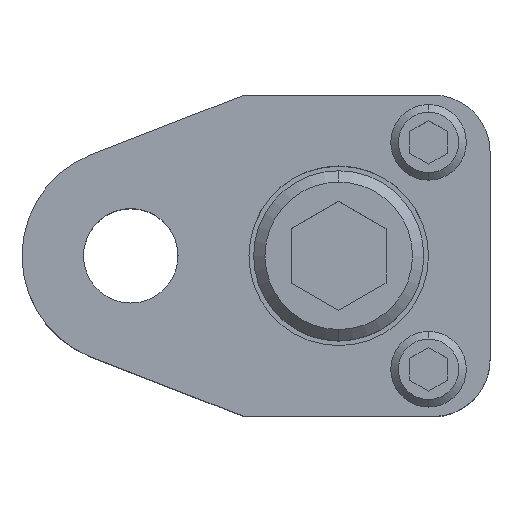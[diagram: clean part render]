
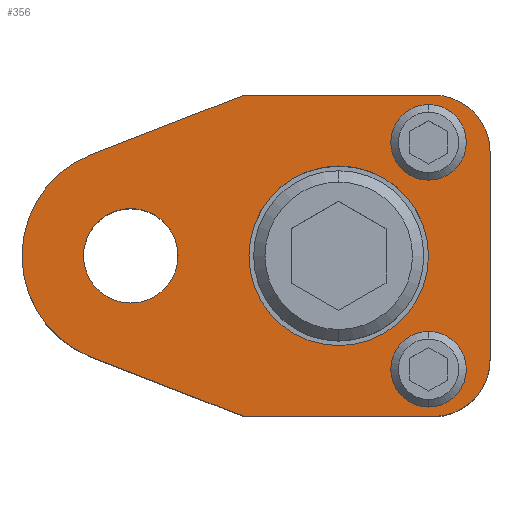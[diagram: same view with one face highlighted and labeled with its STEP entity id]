
A CAD part, top view. The second image highlights one B-rep face of the part: STEP entity #356.
In plain terms, the highlighted planar face has unit normal (0, 0, 1).
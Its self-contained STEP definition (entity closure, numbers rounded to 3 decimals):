
#178=FACE_BOUND('',#617,.T.);
#179=FACE_BOUND('',#618,.T.);
#180=FACE_BOUND('',#619,.T.);
#181=FACE_BOUND('',#620,.T.);
#182=FACE_BOUND('',#621,.T.);
#224=CIRCLE('',#1899,6.);
#226=CIRCLE('',#1904,11.5);
#229=CIRCLE('',#1910,6.);
#231=CIRCLE('',#1913,4.);
#233=CIRCLE('',#1916,4.);
#235=CIRCLE('',#1919,4.);
#237=CIRCLE('',#1922,4.);
#242=CIRCLE('',#1930,9.5);
#243=CIRCLE('',#1931,9.5);
#244=CIRCLE('',#1932,5.);
#245=CIRCLE('',#1933,5.);
#356=ADVANCED_FACE('',(#178,#179,#180,#181,#182),#447,.T.);
#447=PLANE('',#1934);
#617=EDGE_LOOP('',(#887,#888,#889,#890,#891,#892,#893,#894));
#618=EDGE_LOOP('',(#895,#896));
#619=EDGE_LOOP('',(#897,#898));
#620=EDGE_LOOP('',(#899,#900));
#621=EDGE_LOOP('',(#901,#902));
#887=ORIENTED_EDGE('',*,*,#1406,.T.);
#888=ORIENTED_EDGE('',*,*,#1410,.T.);
#889=ORIENTED_EDGE('',*,*,#1413,.T.);
#890=ORIENTED_EDGE('',*,*,#1416,.T.);
#891=ORIENTED_EDGE('',*,*,#1419,.T.);
#892=ORIENTED_EDGE('',*,*,#1422,.T.);
#893=ORIENTED_EDGE('',*,*,#1425,.T.);
#894=ORIENTED_EDGE('',*,*,#1428,.T.);
#895=ORIENTED_EDGE('',*,*,#1447,.F.);
#896=ORIENTED_EDGE('',*,*,#1448,.F.);
#897=ORIENTED_EDGE('',*,*,#1440,.F.);
#898=ORIENTED_EDGE('',*,*,#1437,.F.);
#899=ORIENTED_EDGE('',*,*,#1434,.F.);
#900=ORIENTED_EDGE('',*,*,#1431,.F.);
#901=ORIENTED_EDGE('',*,*,#1449,.T.);
#902=ORIENTED_EDGE('',*,*,#1450,.T.);
#1228=VERTEX_POINT('',#2773);
#1229=VERTEX_POINT('',#2775);
#1232=VERTEX_POINT('',#2782);
#1234=VERTEX_POINT('',#2788);
#1236=VERTEX_POINT('',#2794);
#1238=VERTEX_POINT('',#2800);
#1240=VERTEX_POINT('',#2806);
#1242=VERTEX_POINT('',#2812);
#1245=VERTEX_POINT('',#2823);
#1246=VERTEX_POINT('',#2825);
#1249=VERTEX_POINT('',#2835);
#1250=VERTEX_POINT('',#2837);
#1255=VERTEX_POINT('',#2856);
#1256=VERTEX_POINT('',#2857);
#1257=VERTEX_POINT('',#2860);
#1258=VERTEX_POINT('',#2861);
#1406=EDGE_CURVE('',#1229,#1228,#1632,.T.);
#1410=EDGE_CURVE('',#1228,#1232,#224,.T.);
#1413=EDGE_CURVE('',#1232,#1234,#1637,.T.);
#1416=EDGE_CURVE('',#1234,#1236,#1640,.T.);
#1419=EDGE_CURVE('',#1236,#1238,#226,.T.);
#1422=EDGE_CURVE('',#1238,#1240,#1644,.T.);
#1425=EDGE_CURVE('',#1240,#1242,#1647,.T.);
#1428=EDGE_CURVE('',#1242,#1229,#229,.T.);
#1431=EDGE_CURVE('',#1245,#1246,#231,.T.);
#1434=EDGE_CURVE('',#1246,#1245,#233,.T.);
#1437=EDGE_CURVE('',#1249,#1250,#235,.T.);
#1440=EDGE_CURVE('',#1250,#1249,#237,.T.);
#1447=EDGE_CURVE('',#1255,#1256,#242,.T.);
#1448=EDGE_CURVE('',#1256,#1255,#243,.T.);
#1449=EDGE_CURVE('',#1257,#1258,#244,.T.);
#1450=EDGE_CURVE('',#1258,#1257,#245,.T.);
#1632=LINE('',#2774,#1766);
#1637=LINE('',#2789,#1771);
#1640=LINE('',#2795,#1774);
#1644=LINE('',#2807,#1778);
#1647=LINE('',#2813,#1781);
#1766=VECTOR('',#2211,1.);
#1771=VECTOR('',#2224,1.);
#1774=VECTOR('',#2229,1.);
#1778=VECTOR('',#2241,1.);
#1781=VECTOR('',#2246,1.);
#1899=AXIS2_PLACEMENT_3D('',#2783,#2217,#2218);
#1904=AXIS2_PLACEMENT_3D('',#2801,#2234,#2235);
#1910=AXIS2_PLACEMENT_3D('',#2817,#2252,#2253);
#1913=AXIS2_PLACEMENT_3D('',#2824,#2259,#2260);
#1916=AXIS2_PLACEMENT_3D('',#2829,#2266,#2267);
#1919=AXIS2_PLACEMENT_3D('',#2836,#2273,#2274);
#1922=AXIS2_PLACEMENT_3D('',#2841,#2280,#2281);
#1930=AXIS2_PLACEMENT_3D('',#2855,#2298,#2299);
#1931=AXIS2_PLACEMENT_3D('',#2858,#2300,#2301);
#1932=AXIS2_PLACEMENT_3D('',#2859,#2302,#2303);
#1933=AXIS2_PLACEMENT_3D('',#2862,#2304,#2305);
#1934=AXIS2_PLACEMENT_3D('',#2863,#2306,#2307);
#2211=DIRECTION('',(0.,1.,0.));
#2217=DIRECTION('',(0.,0.,1.));
#2218=DIRECTION('',(-0.707,-0.707,0.));
#2224=DIRECTION('',(-1.,0.,0.));
#2229=DIRECTION('',(-0.932,-0.362,0.));
#2234=DIRECTION('',(0.,0.,1.));
#2235=DIRECTION('',(0.,1.,0.));
#2241=DIRECTION('',(0.932,-0.362,0.));
#2246=DIRECTION('',(1.,0.,0.));
#2252=DIRECTION('',(0.,0.,1.));
#2253=DIRECTION('',(-0.707,0.707,0.));
#2259=DIRECTION('',(0.,0.,1.));
#2260=DIRECTION('',(1.,0.,0.));
#2266=DIRECTION('',(0.,0.,1.));
#2267=DIRECTION('',(-1.,0.,0.));
#2273=DIRECTION('',(0.,0.,1.));
#2274=DIRECTION('',(1.,0.,0.));
#2280=DIRECTION('',(0.,0.,1.));
#2281=DIRECTION('',(-1.,0.,0.));
#2298=DIRECTION('',(0.,0.,1.));
#2299=DIRECTION('',(1.,0.,0.));
#2300=DIRECTION('',(0.,0.,1.));
#2301=DIRECTION('',(-1.,0.,0.));
#2302=DIRECTION('',(0.,0.,-1.));
#2303=DIRECTION('',(-1.,0.,0.));
#2304=DIRECTION('',(0.,0.,-1.));
#2305=DIRECTION('',(1.,0.,0.));
#2306=DIRECTION('',(0.,0.,1.));
#2307=DIRECTION('',(0.,-1.,0.));
#2773=CARTESIAN_POINT('',(38.,11.,25.));
#2774=CARTESIAN_POINT('',(38.,-11.,25.));
#2775=CARTESIAN_POINT('',(38.,-11.,25.));
#2782=CARTESIAN_POINT('',(32.,17.,25.));
#2783=CARTESIAN_POINT('',(32.,11.,25.));
#2788=CARTESIAN_POINT('',(12.,17.,25.));
#2789=CARTESIAN_POINT('',(12.,17.,25.));
#2794=CARTESIAN_POINT('',(-4.165,10.719,25.));
#2795=CARTESIAN_POINT('',(12.,17.,25.));
#2800=CARTESIAN_POINT('',(-4.165,-10.719,25.));
#2801=CARTESIAN_POINT('',(0.,0.,25.));
#2806=CARTESIAN_POINT('',(12.,-17.,25.));
#2807=CARTESIAN_POINT('',(12.,-17.,25.));
#2812=CARTESIAN_POINT('',(32.,-17.,25.));
#2813=CARTESIAN_POINT('',(12.,-17.,25.));
#2817=CARTESIAN_POINT('',(32.,-11.,25.));
#2823=CARTESIAN_POINT('',(31.5,16.,25.));
#2824=CARTESIAN_POINT('',(31.5,12.,25.));
#2825=CARTESIAN_POINT('',(31.5,8.,25.));
#2829=CARTESIAN_POINT('',(31.5,12.,25.));
#2835=CARTESIAN_POINT('',(31.5,-8.,25.));
#2836=CARTESIAN_POINT('',(31.5,-12.,25.));
#2837=CARTESIAN_POINT('',(31.5,-16.,25.));
#2841=CARTESIAN_POINT('',(31.5,-12.,25.));
#2855=CARTESIAN_POINT('',(22.,0.,25.));
#2856=CARTESIAN_POINT('',(22.,9.5,25.));
#2857=CARTESIAN_POINT('',(22.,-9.5,25.));
#2858=CARTESIAN_POINT('',(22.,0.,25.));
#2859=CARTESIAN_POINT('',(0.,0.,25.));
#2860=CARTESIAN_POINT('',(0.,5.,25.));
#2861=CARTESIAN_POINT('',(0.,-5.,25.));
#2862=CARTESIAN_POINT('',(0.,0.,25.));
#2863=CARTESIAN_POINT('',(38.,-11.,25.));
